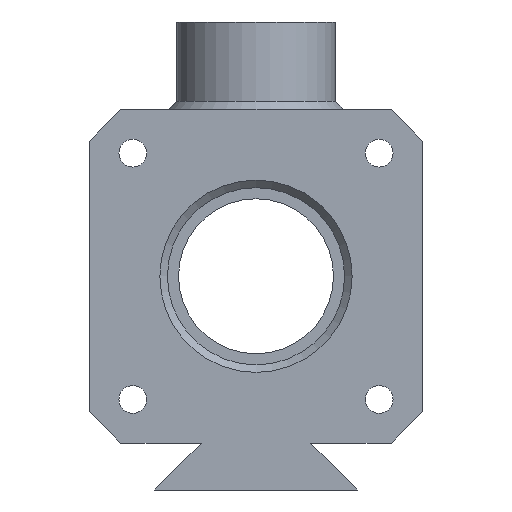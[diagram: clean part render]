
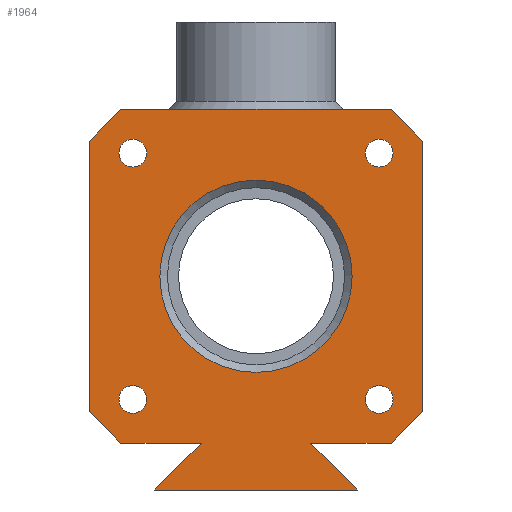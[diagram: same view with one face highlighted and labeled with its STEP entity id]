
A CAD part, left-side view. The second image highlights one B-rep face of the part: STEP entity #1964.
In plain terms, the highlighted planar face has unit normal (-1, 0, 0).
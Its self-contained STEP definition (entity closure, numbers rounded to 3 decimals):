
#1215 = EDGE_CURVE('',#1216,#1218,#1220,.T.);
#1216 = VERTEX_POINT('',#1217);
#1217 = CARTESIAN_POINT('',(-5.,17.,-21.));
#1218 = VERTEX_POINT('',#1219);
#1219 = CARTESIAN_POINT('',(-5.,6.9,-21.));
#1220 = LINE('',#1221,#1222);
#1221 = CARTESIAN_POINT('',(-5.,21.,-21.));
#1222 = VECTOR('',#1223,1.);
#1223 = DIRECTION('',(0.,-1.,0.));
#1266 = VERTEX_POINT('',#1267);
#1267 = CARTESIAN_POINT('',(-5.,12.8,-26.9));
#1273 = EDGE_CURVE('',#1266,#1218,#1274,.T.);
#1274 = LINE('',#1275,#1276);
#1275 = CARTESIAN_POINT('',(-5.,2.875,-16.975));
#1276 = VECTOR('',#1277,1.);
#1277 = DIRECTION('',(0.,-0.707,0.707));
#1290 = VERTEX_POINT('',#1291);
#1291 = CARTESIAN_POINT('',(-5.,-12.8,-26.9));
#1297 = EDGE_CURVE('',#1290,#1266,#1298,.T.);
#1298 = LINE('',#1299,#1300);
#1299 = CARTESIAN_POINT('',(-5.,-6.4,-26.9));
#1300 = VECTOR('',#1301,1.);
#1301 = DIRECTION('',(0.,1.,0.));
#1314 = VERTEX_POINT('',#1315);
#1315 = CARTESIAN_POINT('',(-5.,-6.9,-21.));
#1321 = EDGE_CURVE('',#1314,#1290,#1322,.T.);
#1322 = LINE('',#1323,#1324);
#1323 = CARTESIAN_POINT('',(-5.,0.075,-14.025));
#1324 = VECTOR('',#1325,1.);
#1325 = DIRECTION('',(0.,-0.707,-0.707));
#1364 = VERTEX_POINT('',#1365);
#1365 = CARTESIAN_POINT('',(-5.,-17.,-21.));
#1371 = EDGE_CURVE('',#1364,#1314,#1372,.T.);
#1372 = LINE('',#1373,#1374);
#1373 = CARTESIAN_POINT('',(-5.,-10.,-21.));
#1374 = VECTOR('',#1375,1.);
#1375 = DIRECTION('',(0.,1.,0.));
#1680 = VERTEX_POINT('',#1681);
#1681 = CARTESIAN_POINT('',(-5.,17.,21.));
#1687 = EDGE_CURVE('',#1688,#1680,#1690,.T.);
#1688 = VERTEX_POINT('',#1689);
#1689 = CARTESIAN_POINT('',(-5.,-17.,21.));
#1690 = LINE('',#1691,#1692);
#1691 = CARTESIAN_POINT('',(-5.,-21.,21.));
#1692 = VECTOR('',#1693,1.);
#1693 = DIRECTION('',(0.,1.,0.));
#1964 = ADVANCED_FACE('',(#1965,#2017,#2028,#2039,#2050,#2061),#2072,.F.
  );
#1965 = FACE_BOUND('',#1966,.F.);
#1966 = EDGE_LOOP('',(#1967,#1977,#1983,#1984,#1985,#1986,#1987,#1988,
    #1996,#2004,#2010,#2011));
#1967 = ORIENTED_EDGE('',*,*,#1968,.F.);
#1968 = EDGE_CURVE('',#1969,#1971,#1973,.T.);
#1969 = VERTEX_POINT('',#1970);
#1970 = CARTESIAN_POINT('',(-5.,-21.,-17.));
#1971 = VERTEX_POINT('',#1972);
#1972 = CARTESIAN_POINT('',(-5.,-21.,17.));
#1973 = LINE('',#1974,#1975);
#1974 = CARTESIAN_POINT('',(-5.,-21.,-21.));
#1975 = VECTOR('',#1976,1.);
#1976 = DIRECTION('',(0.,0.,1.));
#1977 = ORIENTED_EDGE('',*,*,#1978,.T.);
#1978 = EDGE_CURVE('',#1969,#1364,#1979,.T.);
#1979 = LINE('',#1980,#1981);
#1980 = CARTESIAN_POINT('',(-5.,-19.,-19.));
#1981 = VECTOR('',#1982,1.);
#1982 = DIRECTION('',(0.,0.707,-0.707));
#1983 = ORIENTED_EDGE('',*,*,#1371,.T.);
#1984 = ORIENTED_EDGE('',*,*,#1321,.T.);
#1985 = ORIENTED_EDGE('',*,*,#1297,.T.);
#1986 = ORIENTED_EDGE('',*,*,#1273,.T.);
#1987 = ORIENTED_EDGE('',*,*,#1215,.F.);
#1988 = ORIENTED_EDGE('',*,*,#1989,.T.);
#1989 = EDGE_CURVE('',#1216,#1990,#1992,.T.);
#1990 = VERTEX_POINT('',#1991);
#1991 = CARTESIAN_POINT('',(-5.,21.,-17.));
#1992 = LINE('',#1993,#1994);
#1993 = CARTESIAN_POINT('',(-5.,19.,-19.));
#1994 = VECTOR('',#1995,1.);
#1995 = DIRECTION('',(0.,0.707,0.707));
#1996 = ORIENTED_EDGE('',*,*,#1997,.F.);
#1997 = EDGE_CURVE('',#1998,#1990,#2000,.T.);
#1998 = VERTEX_POINT('',#1999);
#1999 = CARTESIAN_POINT('',(-5.,21.,17.));
#2000 = LINE('',#2001,#2002);
#2001 = CARTESIAN_POINT('',(-5.,21.,21.));
#2002 = VECTOR('',#2003,1.);
#2003 = DIRECTION('',(0.,0.,-1.));
#2004 = ORIENTED_EDGE('',*,*,#2005,.T.);
#2005 = EDGE_CURVE('',#1998,#1680,#2006,.T.);
#2006 = LINE('',#2007,#2008);
#2007 = CARTESIAN_POINT('',(-5.,19.,19.));
#2008 = VECTOR('',#2009,1.);
#2009 = DIRECTION('',(0.,-0.707,0.707));
#2010 = ORIENTED_EDGE('',*,*,#1687,.F.);
#2011 = ORIENTED_EDGE('',*,*,#2012,.T.);
#2012 = EDGE_CURVE('',#1688,#1971,#2013,.T.);
#2013 = LINE('',#2014,#2015);
#2014 = CARTESIAN_POINT('',(-5.,-19.,19.));
#2015 = VECTOR('',#2016,1.);
#2016 = DIRECTION('',(0.,-0.707,-0.707));
#2017 = FACE_BOUND('',#2018,.F.);
#2018 = EDGE_LOOP('',(#2019));
#2019 = ORIENTED_EDGE('',*,*,#2020,.F.);
#2020 = EDGE_CURVE('',#2021,#2021,#2023,.T.);
#2021 = VERTEX_POINT('',#2022);
#2022 = CARTESIAN_POINT('',(-5.,-17.25,-15.5));
#2023 = CIRCLE('',#2024,1.75);
#2024 = AXIS2_PLACEMENT_3D('',#2025,#2026,#2027);
#2025 = CARTESIAN_POINT('',(-5.,-15.5,-15.5));
#2026 = DIRECTION('',(1.,0.,0.));
#2027 = DIRECTION('',(0.,1.,0.));
#2028 = FACE_BOUND('',#2029,.F.);
#2029 = EDGE_LOOP('',(#2030));
#2030 = ORIENTED_EDGE('',*,*,#2031,.F.);
#2031 = EDGE_CURVE('',#2032,#2032,#2034,.T.);
#2032 = VERTEX_POINT('',#2033);
#2033 = CARTESIAN_POINT('',(-5.,13.75,-15.5));
#2034 = CIRCLE('',#2035,1.75);
#2035 = AXIS2_PLACEMENT_3D('',#2036,#2037,#2038);
#2036 = CARTESIAN_POINT('',(-5.,15.5,-15.5));
#2037 = DIRECTION('',(1.,0.,0.));
#2038 = DIRECTION('',(0.,1.,0.));
#2039 = FACE_BOUND('',#2040,.F.);
#2040 = EDGE_LOOP('',(#2041));
#2041 = ORIENTED_EDGE('',*,*,#2042,.F.);
#2042 = EDGE_CURVE('',#2043,#2043,#2045,.T.);
#2043 = VERTEX_POINT('',#2044);
#2044 = CARTESIAN_POINT('',(-5.,-17.25,15.5));
#2045 = CIRCLE('',#2046,1.75);
#2046 = AXIS2_PLACEMENT_3D('',#2047,#2048,#2049);
#2047 = CARTESIAN_POINT('',(-5.,-15.5,15.5));
#2048 = DIRECTION('',(1.,0.,0.));
#2049 = DIRECTION('',(0.,1.,0.));
#2050 = FACE_BOUND('',#2051,.F.);
#2051 = EDGE_LOOP('',(#2052));
#2052 = ORIENTED_EDGE('',*,*,#2053,.T.);
#2053 = EDGE_CURVE('',#2054,#2054,#2056,.T.);
#2054 = VERTEX_POINT('',#2055);
#2055 = CARTESIAN_POINT('',(-5.,-12.1,0.));
#2056 = CIRCLE('',#2057,12.1);
#2057 = AXIS2_PLACEMENT_3D('',#2058,#2059,#2060);
#2058 = CARTESIAN_POINT('',(-5.,0.,0.));
#2059 = DIRECTION('',(-1.,0.,0.));
#2060 = DIRECTION('',(0.,1.,0.));
#2061 = FACE_BOUND('',#2062,.F.);
#2062 = EDGE_LOOP('',(#2063));
#2063 = ORIENTED_EDGE('',*,*,#2064,.F.);
#2064 = EDGE_CURVE('',#2065,#2065,#2067,.T.);
#2065 = VERTEX_POINT('',#2066);
#2066 = CARTESIAN_POINT('',(-5.,13.75,15.5));
#2067 = CIRCLE('',#2068,1.75);
#2068 = AXIS2_PLACEMENT_3D('',#2069,#2070,#2071);
#2069 = CARTESIAN_POINT('',(-5.,15.5,15.5));
#2070 = DIRECTION('',(1.,0.,0.));
#2071 = DIRECTION('',(0.,1.,0.));
#2072 = PLANE('',#2073);
#2073 = AXIS2_PLACEMENT_3D('',#2074,#2075,#2076);
#2074 = CARTESIAN_POINT('',(-5.,0.,0.));
#2075 = DIRECTION('',(1.,0.,0.));
#2076 = DIRECTION('',(0.,1.,0.));
